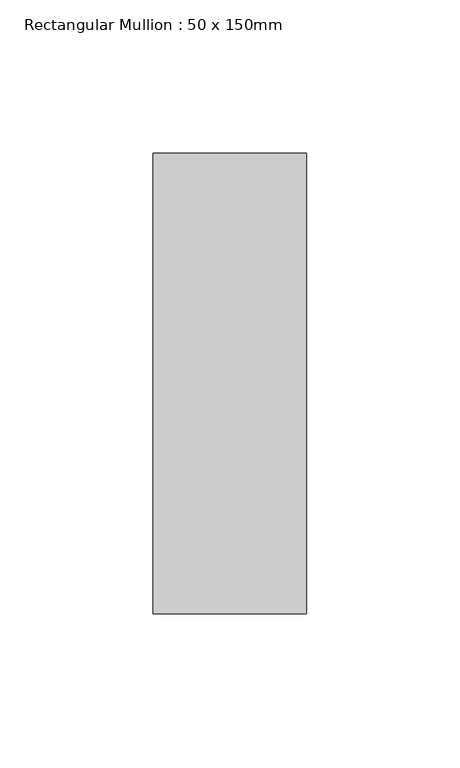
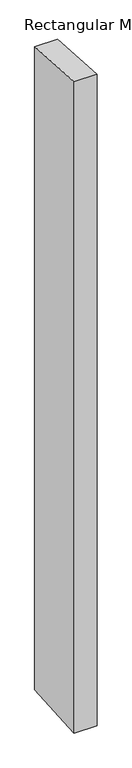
"""IFC4 building model written with IfcOpenShell, lengths in millimetres: member geometry, Rectangular Mullion : 50 x 150mm."""

from ifc_helpers import new_model, si_unit, origin, place, context, project, spatial, faceted_brep, source, transform, mapped, element, save


def rectangular_mullion_50_x_150mm_fc893f09(model_context):
    return source(origin(), model_context, "Body", "Brep", [
        faceted_brep([(-50.0, 75.0, -4.798358), (0.0, 75.0, -4.7427274), (0.0, 75.0, -1495.253241), (-50.0, 75.0, -1495.1975631), (-50.0, -75.0, 4.6870968), (-50.0, -75.0, -1504.6910811), (0.0, -75.0, 4.7427274), (0.0, -75.0, -1504.746759)], [[[0, 1, 2, 3]], [[4, 0, 3, 5]], [[6, 4, 5, 7]], [[1, 6, 7, 2]], [[1, 0, 4, 6]], [[2, 7, 5, 3]]]),
    ])


if __name__ == "__main__":
    model = new_model("IFC4")
    model_context = context("Model", 3, world=origin())
    ifc_project = project(units=[si_unit("LENGTHUNIT", "METRE", prefix="MILLI")], contexts=[model_context])
    site = spatial("IfcSite", under=ifc_project)
    building = spatial("IfcBuilding", under=site)
    placement = place(None, origin())
    rectangular_mullion_50_x_150mm_shape = rectangular_mullion_50_x_150mm_fc893f09(model_context)
    element("IfcMember", 1, ObjectType="Rectangular Mullion : 50 x 150mm", at=placement, inside=building, context=model_context, shape_type="MappedRepresentation", body=[
        mapped(rectangular_mullion_50_x_150mm_shape, transform((0.0, 0.0, 0.0), x_axis=(1.0, 0.0, 0.0), y_axis=(0.0, 1.0, 0.0), z_axis=(0.0, 0.0, 1.0))),
    ])
    save(model, "model.ifc")
